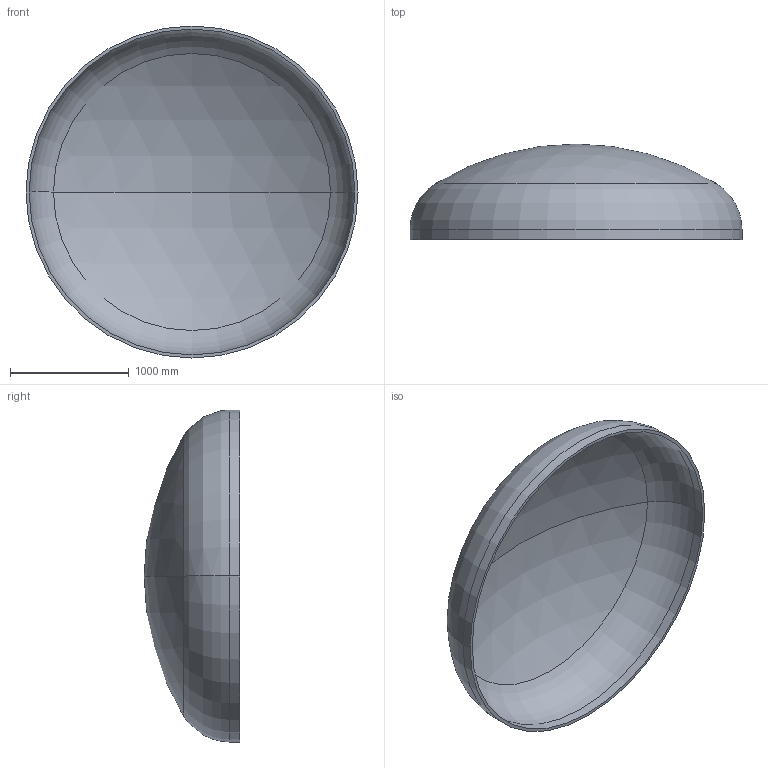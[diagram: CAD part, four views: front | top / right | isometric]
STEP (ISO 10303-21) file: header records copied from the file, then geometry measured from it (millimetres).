
FILE_DESCRIPTION (( 'STEP AP203' ), '1' );
FILE_NAME ('DIN 28013 Korbbogenform_-_Boden DIN 28013 - 2800 x 85 - I - s=26.step', '2016-07-01T16:50:11', ( '' ), ( '' ), 'SwSTEP 2.0', 'SolidWorks 2013', '' );
FILE_SCHEMA (( 'CONFIG_CONTROL_DESIGN' ));
Length unit declared in the file: millimetre
Products named in the file (1): DIN 28013 Korbbogenform_-_Boden DIN 28013 - 2800 x 85 - I - s=26
Bounding box: 2800 x 806.67 x 2800 mm (x, y, z)
Volume: 238164395.7 mm3; surface area: 18548331.4 mm2
Topology: 1 solids, 1 shells, 13 faces, 24 edges, 14 vertices
Faces by surface type: torus 4, cylinder 4, sphere 4, plane 1
Entity records: 407 total; most frequent: DIRECTION 72, CARTESIAN_POINT 52, ORIENTED_EDGE 48, AXIS2_PLACEMENT_3D 34, EDGE_CURVE 24, CIRCLE 20, EDGE_LOOP 14, VERTEX_POINT 14
